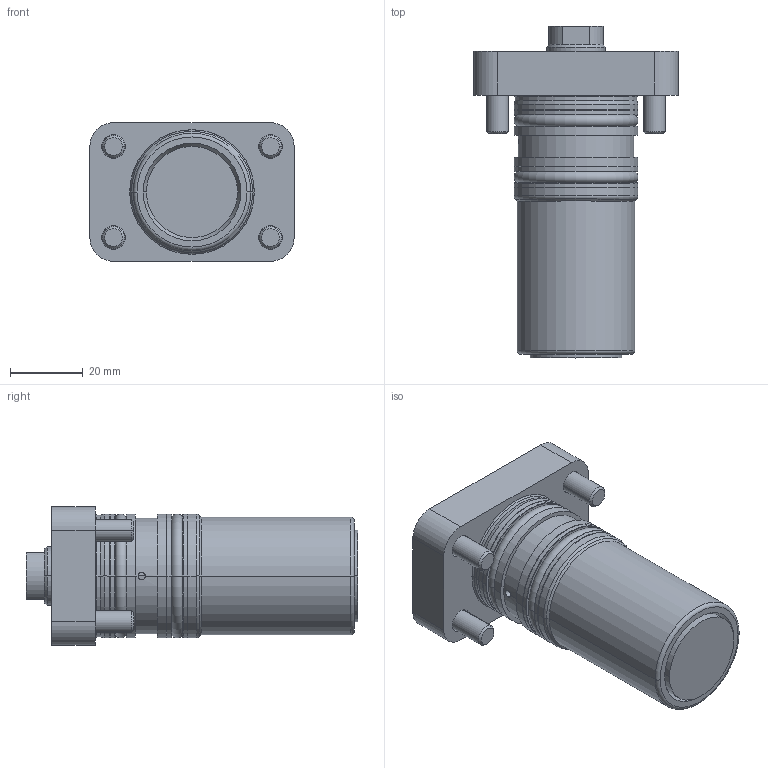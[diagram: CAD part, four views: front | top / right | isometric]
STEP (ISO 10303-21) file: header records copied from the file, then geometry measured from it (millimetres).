
FILE_DESCRIPTION (( 'STEP AP203' ), '1' );
FILE_NAME ('GERMA_Einbauzylinder_210-025-050.STEP', '2023-09-06T15:55:17', ( '' ), ( '' ), 'SwSTEP 2.0', 'SolidWorks 2016', '' );
FILE_SCHEMA (( 'CONFIG_CONTROL_DESIGN' ));
Length unit declared in the file: millimetre
Products named in the file (4): Gehaeuse 210-025_Gehaeuse 210-025-050; GERMA_Einbauzylinder_210-025-050; DIN7984-M6x18; Kolben 60x-025_Kolben DU.25-Hub50-IG
Assembly tree (6 placements, depth 2):
  GERMA_Einbauzylinder_210-025-050
    Gehaeuse 210-025_Gehaeuse 210-025-050
    Kolben 60x-025_Kolben DU.25-Hub50-IG
    DIN7984-M6x18  x4
Bounding box: 56 x 91 x 38 mm (x, y, z)
Volume: 70921.4 mm3; surface area: 29992.6 mm2
Topology: 6 solids, 6 shells, 374 faces, 893 edges, 558 vertices
Faces by surface type: plane 163, bspline 84, cylinder 75, cone 30, torus 22
Entity records: 12880 total; most frequent: CARTESIAN_POINT 5804, ORIENTED_EDGE 1430, DIRECTION 1218, EDGE_CURVE 715, VERTEX_POINT 459, AXIS2_PLACEMENT_3D 421, LINE 376, VECTOR 376
